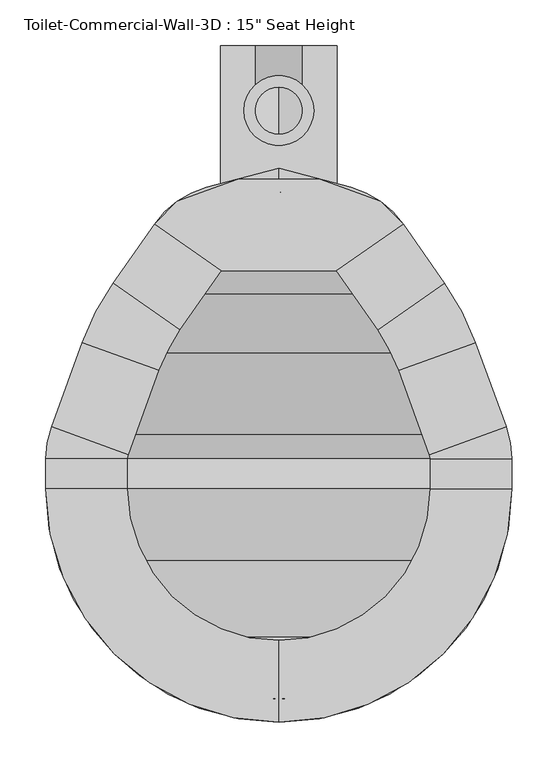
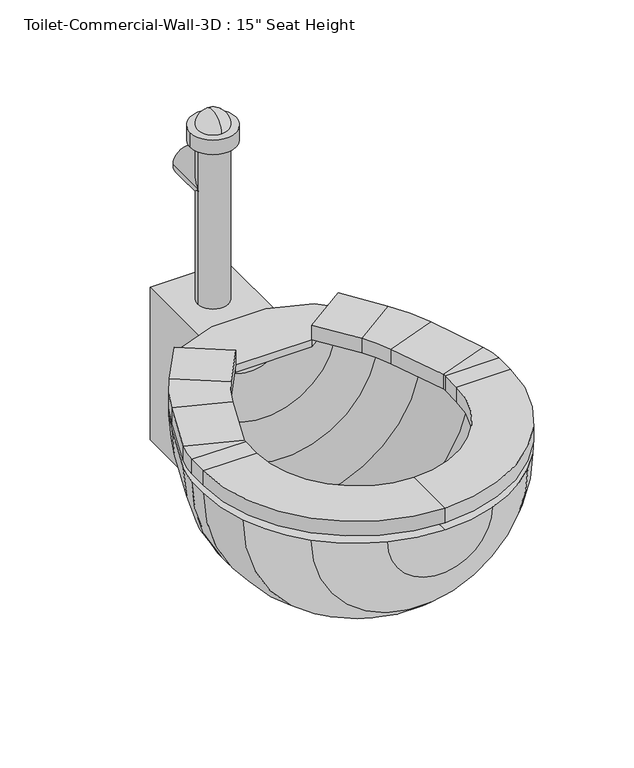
"""IFC4 building model written with IfcOpenShell, lengths in millimetres: flow terminal geometry."""

from ifc_helpers import new_model, si_unit, point, frame, frame_2d, origin, place, context, project, spatial, polyline, circle_curve, ellipse_curve, trimmed, segment, composite_curve, outline, extrude, source, transform, mapped, element, save
from ifc_brep_helpers import plane_surface, cylinder_surface, revolved_surface, advanced_brep


def flow_terminal_bb9b5f27(model_context):
    return source(origin(), model_context, "Body", "SolidModel", [
        extrude(outline(polyline([(467.7541169, -330.7597495), (342.0521907, -330.7597495), (269.229574, -279.7688043), (294.1800557, -254.8183226), (360.2423986, -230.7735961), (449.563909, -230.7735961), (515.6262519, -254.8183226), (540.5767337, -279.7688043), (467.7541169, -330.7597495)])), frame((0.0, 0.0, 342.9), z_axis=(0.0, 0.0, 1.0), x_axis=(1.0, 0.0, 0.0)), (0.0, 0.0, 1.0), 12.7),
        advanced_brep(
        [(467.7541169, -330.7597495, 355.6), (467.7541169, -330.7597495, 381.0), (540.5767337, -279.7688043, 381.0), (540.5767337, -279.7688043, 355.6), (585.6810159, -344.1843951, 355.6), (512.8583992, -395.1753403, 355.6), (585.6810159, -344.1843951, 381.0), (512.8583992, -395.1753403, 381.0), (619.360053, -408.8812234, 355.6), (535.821379, -439.2868141, 355.6), (619.360053, -408.8812234, 381.0), (535.821379, -439.2868141, 381.0), (652.7759241, -500.6905747, 355.6), (569.2372501, -531.0961654, 355.6), (652.7759241, -500.6905747, 381.0), (569.2372501, -531.0961654, 381.0), (658.9031538, -535.4398212, 355.6), (570.0031538, -535.4398212, 355.6), (658.9031538, -535.4398212, 381.0), (570.0031538, -535.4398212, 381.0), (658.9031538, -568.325, 355.6), (570.0031538, -568.325, 355.6), (658.9031538, -568.325, 381.0), (570.0031538, -568.325, 381.0), (404.9031538, -822.325, 355.6), (404.9031538, -733.425, 355.6), (404.9031538, -822.325, 381.0), (404.9031538, -733.425, 381.0), (150.9031538, -568.325, 355.6), (239.8031538, -568.325, 355.6), (150.9031538, -568.325, 381.0), (239.8031538, -568.325, 381.0), (150.9031538, -535.4398212, 355.6), (239.8031538, -535.4398212, 355.6), (150.9031538, -535.4398212, 381.0), (239.8031538, -535.4398212, 381.0), (157.0303835, -500.6905747, 355.6), (240.5690575, -531.0961654, 355.6), (157.0303835, -500.6905747, 381.0), (240.5690575, -531.0961654, 381.0), (190.4462546, -408.8812234, 355.6), (273.9849286, -439.2868141, 355.6), (190.4462546, -408.8812234, 381.0), (273.9849286, -439.2868141, 381.0), (224.1252917, -344.1843951, 355.6), (296.9479084, -395.1753403, 355.6), (224.1252917, -344.1843951, 381.0), (296.9479084, -395.1753403, 381.0), (342.0521907, -330.7597495, 355.6), (269.229574, -279.7688043, 355.6), (269.229574, -279.7688043, 381.0), (342.0521907, -330.7597495, 381.0)],
        [
            (0, 1),
            (1, 2),
            (2, 3),
            (3, 0),
            (3, 4),
            (4, 5),
            (5, 0),
            (2, 6),
            (6, 4),
            (1, 7),
            (7, 6),
            (5, 7),
            (8, 9),
            (9, 5, circle_curve(frame((356.8099347, -504.4416514, 355.6), z_axis=(0.0, 0.0, 1.0), x_axis=(0.81915204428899, 0.5735764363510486, 0.0)), 190.5)),
            (4, 8, circle_curve(frame((356.8099347, -504.4416514, 355.6), z_axis=(0.0, 0.0, -1.0), x_axis=(0.81915204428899, 0.5735764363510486, 0.0)), 279.4)),
            (10, 8),
            (6, 10, circle_curve(frame((356.8099347, -504.4416514, 381.0), z_axis=(0.0, 0.0, -1.0), x_axis=(0.81915204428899, 0.5735764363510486, 0.0)), 279.4)),
            (11, 10),
            (7, 11, circle_curve(frame((356.8099347, -504.4416514, 381.0), z_axis=(0.0, 0.0, -1.0), x_axis=(0.81915204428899, 0.5735764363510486, 0.0)), 190.5)),
            (9, 11),
            (8, 12),
            (12, 13),
            (13, 9),
            (10, 14),
            (14, 12),
            (11, 15),
            (15, 14),
            (13, 15),
            (16, 17),
            (17, 13, circle_curve(frame((557.3031538, -535.4398212, 355.6), z_axis=(0.0, 0.0, 1.0), x_axis=(0.939692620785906, 0.34202014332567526, 0.0)), 12.7)),
            (12, 16, circle_curve(frame((557.3031538, -535.4398212, 355.6), z_axis=(0.0, 0.0, -1.0), x_axis=(0.939692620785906, 0.34202014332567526, 0.0)), 101.6)),
            (18, 16),
            (14, 18, circle_curve(frame((557.3031538, -535.4398212, 381.0), z_axis=(0.0, 0.0, -1.0), x_axis=(0.939692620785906, 0.34202014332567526, 0.0)), 101.6)),
            (19, 18),
            (15, 19, circle_curve(frame((557.3031538, -535.4398212, 381.0), z_axis=(0.0, 0.0, -1.0), x_axis=(0.939692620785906, 0.34202014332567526, 0.0)), 12.7)),
            (17, 19),
            (16, 20),
            (20, 21),
            (21, 17),
            (18, 22),
            (22, 20),
            (19, 23),
            (23, 22),
            (21, 23),
            (24, 25),
            (25, 21, circle_curve(frame((404.9031538, -568.325, 355.6), z_axis=(0.0, 0.0, 1.0), x_axis=(1.0, 0.0, 0.0)), 165.1)),
            (20, 24, circle_curve(frame((404.9031538, -568.325, 355.6), z_axis=(0.0, 0.0, -1.0), x_axis=(1.0, 0.0, 0.0)), 254.0)),
            (26, 24),
            (22, 26, circle_curve(frame((404.9031538, -568.325, 381.0), z_axis=(0.0, 0.0, -1.0), x_axis=(1.0, 0.0, 0.0)), 254.0)),
            (27, 26),
            (23, 27, circle_curve(frame((404.9031538, -568.325, 381.0), z_axis=(0.0, 0.0, -1.0), x_axis=(1.0, 0.0, 0.0)), 165.1)),
            (25, 27),
            (28, 29),
            (29, 25, circle_curve(frame((404.9031538, -568.325, 355.6), z_axis=(0.0, 0.0, 1.0), x_axis=(0.0, -1.0, 0.0)), 165.1)),
            (24, 28, circle_curve(frame((404.9031538, -568.325, 355.6), z_axis=(0.0, 0.0, -1.0), x_axis=(0.0, -1.0, 0.0)), 254.0)),
            (30, 28),
            (26, 30, circle_curve(frame((404.9031538, -568.325, 381.0), z_axis=(0.0, 0.0, -1.0), x_axis=(0.0, -1.0, 0.0)), 254.0)),
            (31, 30),
            (27, 31, circle_curve(frame((404.9031538, -568.325, 381.0), z_axis=(0.0, 0.0, -1.0), x_axis=(0.0, -1.0, 0.0)), 165.1)),
            (29, 31),
            (28, 32),
            (32, 33),
            (33, 29),
            (30, 34),
            (34, 32),
            (31, 35),
            (35, 34),
            (33, 35),
            (36, 37),
            (37, 33, circle_curve(frame((252.5031538, -535.4398212, 355.6), z_axis=(0.0, 0.0, 1.0), x_axis=(-1.0, 0.0, 0.0)), 12.7)),
            (32, 36, circle_curve(frame((252.5031538, -535.4398212, 355.6), z_axis=(0.0, 0.0, -1.0), x_axis=(-1.0, 0.0, 0.0)), 101.6)),
            (38, 36),
            (34, 38, circle_curve(frame((252.5031538, -535.4398212, 381.0), z_axis=(0.0, 0.0, -1.0), x_axis=(-1.0, 0.0, 0.0)), 101.6)),
            (39, 38),
            (35, 39, circle_curve(frame((252.5031538, -535.4398212, 381.0), z_axis=(0.0, 0.0, -1.0), x_axis=(-1.0, 0.0, 0.0)), 12.7)),
            (37, 39),
            (36, 40),
            (40, 41),
            (41, 37),
            (38, 42),
            (42, 40),
            (39, 43),
            (43, 42),
            (41, 43),
            (44, 45),
            (45, 41, circle_curve(frame((452.9963729, -504.4416514, 355.6), z_axis=(0.0, 0.0, 1.0), x_axis=(-0.9396926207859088, 0.34202014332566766, 0.0)), 190.5)),
            (40, 44, circle_curve(frame((452.9963729, -504.4416514, 355.6), z_axis=(0.0, 0.0, -1.0), x_axis=(-0.9396926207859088, 0.34202014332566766, 0.0)), 279.4)),
            (46, 44),
            (42, 46, circle_curve(frame((452.9963729, -504.4416514, 381.0), z_axis=(0.0, 0.0, -1.0), x_axis=(-0.9396926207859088, 0.34202014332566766, 0.0)), 279.4)),
            (47, 46),
            (43, 47, circle_curve(frame((452.9963729, -504.4416514, 381.0), z_axis=(0.0, 0.0, -1.0), x_axis=(-0.9396926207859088, 0.34202014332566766, 0.0)), 190.5)),
            (45, 47),
            (48, 49),
            (49, 50),
            (50, 51),
            (51, 48),
            (44, 49),
            (48, 45),
            (46, 50),
            (47, 51),
        ],
        [
            plane_surface(frame((540.5767337, -279.7688043, 439.6203184), z_axis=(-0.5735764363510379, 0.8191520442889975, 0.0), x_axis=(0.8191520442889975, 0.5735764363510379, 0.0))),
            plane_surface(frame((467.7541169, -330.7597495, 355.6), z_axis=(0.0, 0.0, -1.0), x_axis=(0.5735764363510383, -0.8191520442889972, 0.0))),
            plane_surface(frame((540.5767337, -279.7688043, 355.6), z_axis=(0.8191520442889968, 0.5735764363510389, 0.0), x_axis=(0.5735764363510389, -0.8191520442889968, 0.0))),
            plane_surface(frame((540.5767337, -279.7688043, 381.0), z_axis=(0.0, 0.0, 1.0), x_axis=(0.5735764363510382, -0.8191520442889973, 0.0))),
            plane_surface(frame((467.7541169, -330.7597495, 381.0), z_axis=(-0.8191520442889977, -0.5735764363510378, 0.0), x_axis=(0.5735764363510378, -0.8191520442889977, 0.0))),
            plane_surface(frame((356.8099347, -504.4416514, 355.6), z_axis=(0.0, 0.0, -1.0), x_axis=(0.81915204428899, 0.5735764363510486, 0.0))),
            cylinder_surface(frame((356.8099347, -504.4416514, 342.9), z_axis=(0.0, 0.0, 1.0), x_axis=(0.81915204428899, 0.5735764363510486, 0.0)), 279.4),
            plane_surface(frame((356.8099347, -504.4416514, 381.0), z_axis=(0.0, 0.0, 1.0), x_axis=(0.81915204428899, 0.5735764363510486, 0.0))),
            revolved_surface(polyline([(512.8583991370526, -395.1753402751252, 381.0), (512.8583991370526, -395.1753402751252, 355.6)]), (356.8099347, -504.4416514, 342.9), (0.0, 0.0, 1.0)),
            plane_surface(frame((535.821379, -439.2868141, 355.6), z_axis=(0.0, 0.0, -1.0), x_axis=(0.34202014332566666, -0.9396926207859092, 0.0))),
            plane_surface(frame((619.360053, -408.8812234, 355.6), z_axis=(0.9396926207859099, 0.3420201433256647, 0.0), x_axis=(0.3420201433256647, -0.9396926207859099, 0.0))),
            plane_surface(frame((619.360053, -408.8812234, 381.0), z_axis=(0.0, 0.0, 1.0), x_axis=(0.3420201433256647, -0.9396926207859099, 0.0))),
            plane_surface(frame((535.821379, -439.2868141, 381.0), z_axis=(-0.9396926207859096, -0.3420201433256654, 0.0), x_axis=(0.3420201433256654, -0.9396926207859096, 0.0))),
            plane_surface(frame((557.3031538, -535.4398212, 355.6), z_axis=(0.0, 0.0, -1.0), x_axis=(0.939692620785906, 0.34202014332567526, 0.0))),
            cylinder_surface(frame((557.3031538, -535.4398212, 342.9), z_axis=(0.0, 0.0, 1.0), x_axis=(0.939692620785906, 0.34202014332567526, 0.0)), 101.6),
            plane_surface(frame((557.3031538, -535.4398212, 381.0), z_axis=(0.0, 0.0, 1.0), x_axis=(0.939692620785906, 0.34202014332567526, 0.0))),
            revolved_surface(polyline([(569.237250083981, -531.0961653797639, 381.0), (569.237250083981, -531.0961653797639, 355.6)]), (557.3031538, -535.4398212, 342.9), (0.0, 0.0, 1.0)),
            plane_surface(frame((570.0031538, -535.4398212, 355.6), z_axis=(0.0, 0.0, -1.0), x_axis=(0.0, -1.0, 0.0))),
            plane_surface(frame((658.9031538, -535.4398212, 355.6), z_axis=(1.0, 0.0, 0.0), x_axis=(0.0, -1.0, 0.0))),
            plane_surface(frame((658.9031538, -535.4398212, 381.0), z_axis=(0.0, 0.0, 1.0), x_axis=(0.0, -1.0, 0.0))),
            plane_surface(frame((570.0031538, -535.4398212, 381.0), z_axis=(-1.0, 0.0, 0.0), x_axis=(0.0, -1.0, 0.0))),
            plane_surface(frame((404.9031538, -568.325, 355.6), z_axis=(0.0, 0.0, -1.0), x_axis=(1.0, 0.0, 0.0))),
            cylinder_surface(frame((404.9031538, -568.325, 342.9), z_axis=(0.0, 0.0, 1.0), x_axis=(1.0, 0.0, 0.0)), 254.0),
            plane_surface(frame((404.9031538, -568.325, 381.0), z_axis=(0.0, 0.0, 1.0), x_axis=(1.0, 0.0, 0.0))),
            revolved_surface(polyline([(570.0031538, -568.325, 381.0), (570.0031538, -568.325, 355.6)]), (404.9031538, -568.325, 342.9), (0.0, 0.0, 1.0)),
            plane_surface(frame((404.9031538, -568.325, 355.6), z_axis=(0.0, 0.0, -1.0), x_axis=(0.0, -1.0, 0.0))),
            cylinder_surface(frame((404.9031538, -568.325, 342.9), z_axis=(0.0, 0.0, 1.0), x_axis=(0.0, -1.0, 0.0)), 254.0),
            plane_surface(frame((404.9031538, -568.325, 381.0), z_axis=(0.0, 0.0, 1.0), x_axis=(0.0, -1.0, 0.0))),
            revolved_surface(polyline([(404.9031538, -733.4250000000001, 381.0), (404.9031538, -733.4250000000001, 355.6)]), (404.9031538, -568.325, 342.9), (0.0, 0.0, 1.0)),
            plane_surface(frame((239.8031538, -568.325, 355.6), z_axis=(0.0, 0.0, -1.0), x_axis=(0.0, 1.0, 0.0))),
            plane_surface(frame((150.9031538, -568.325, 355.6), z_axis=(-1.0, 0.0, 0.0), x_axis=(0.0, 1.0, 0.0))),
            plane_surface(frame((150.9031538, -568.325, 381.0), z_axis=(0.0, 0.0, 1.0), x_axis=(0.0, 1.0, 0.0))),
            plane_surface(frame((239.8031538, -568.325, 381.0), z_axis=(1.0, 0.0, 0.0), x_axis=(0.0, 1.0, 0.0))),
            plane_surface(frame((252.5031538, -535.4398212, 355.6), z_axis=(0.0, 0.0, -1.0), x_axis=(-1.0, 0.0, 0.0))),
            cylinder_surface(frame((252.5031538, -535.4398212, 342.9), z_axis=(0.0, 0.0, 1.0), x_axis=(-1.0, 0.0, 0.0)), 101.6),
            plane_surface(frame((252.5031538, -535.4398212, 381.0), z_axis=(0.0, 0.0, 1.0), x_axis=(-1.0, 0.0, 0.0))),
            revolved_surface(polyline([(239.80315380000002, -535.4398212, 381.0), (239.80315380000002, -535.4398212, 355.6)]), (252.5031538, -535.4398212, 342.9), (0.0, 0.0, 1.0)),
            plane_surface(frame((240.5690575, -531.0961654, 355.6), z_axis=(0.0, 0.0, -1.0), x_axis=(0.3420201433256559, 0.9396926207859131, 0.0))),
            plane_surface(frame((157.0303835, -500.6905747, 355.6), z_axis=(-0.9396926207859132, 0.34202014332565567, 0.0), x_axis=(0.34202014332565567, 0.9396926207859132, 0.0))),
            plane_surface(frame((157.0303835, -500.6905747, 381.0), z_axis=(0.0, 0.0, 1.0000000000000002), x_axis=(0.3420201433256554, 0.9396926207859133, 0.0))),
            plane_surface(frame((240.5690575, -531.0961654, 381.0), z_axis=(0.9396926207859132, -0.34202014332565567, 0.0), x_axis=(0.34202014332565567, 0.9396926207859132, 0.0))),
            plane_surface(frame((452.9963729, -504.4416514, 355.6), z_axis=(0.0, 0.0, -1.0), x_axis=(-0.9396926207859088, 0.34202014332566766, 0.0))),
            cylinder_surface(frame((452.9963729, -504.4416514, 342.9), z_axis=(0.0, 0.0, 1.0), x_axis=(-0.9396926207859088, 0.34202014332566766, 0.0)), 279.4),
            plane_surface(frame((452.9963729, -504.4416514, 381.0), z_axis=(0.0, 0.0, 1.0), x_axis=(-0.9396926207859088, 0.34202014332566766, 0.0))),
            revolved_surface(polyline([(273.98492864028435, -439.2868140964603, 381.0), (273.98492864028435, -439.2868140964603, 355.6)]), (452.9963729, -504.4416514, 342.9), (0.0, 0.0, 1.0)),
            plane_surface(frame((269.229574, -279.7688043, 246.1796816), z_axis=(0.5735764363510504, 0.8191520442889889, 0.0), x_axis=(0.8191520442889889, -0.5735764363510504, 0.0))),
            plane_surface(frame((296.9479084, -395.1753403, 355.6), z_axis=(0.0, 0.0, -1.0), x_axis=(0.5735764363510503, 0.8191520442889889, 0.0))),
            plane_surface(frame((224.1252917, -344.1843951, 355.6), z_axis=(-0.8191520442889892, 0.5735764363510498, 0.0), x_axis=(0.5735764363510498, 0.8191520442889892, 0.0))),
            plane_surface(frame((224.1252917, -344.1843951, 381.0), z_axis=(0.0, 0.0, 1.0), x_axis=(0.5735764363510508, 0.8191520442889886, 0.0))),
            plane_surface(frame((296.9479084, -395.1753403, 381.0), z_axis=(0.8191520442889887, -0.5735764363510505, 0.0), x_axis=(0.5735764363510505, 0.8191520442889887, 0.0))),
        ],
        [
            (0, [[1, 2, 3, 4]]),
            (1, [[5, 6, 7, -4]]),
            (2, [[8, 9, -5, -3]]),
            (3, [[10, 11, -8, -2]]),
            (4, [[-7, 12, -10, -1]]),
            (5, [[13, 14, -6, 15]]),
            (6, [[16, -15, -9, 17]]),
            (7, [[18, -17, -11, 19]]),
            (8, [[20, -19, -12, -14]]),
            (9, [[21, 22, 23, -13]]),
            (10, [[24, 25, -21, -16]]),
            (11, [[26, 27, -24, -18]]),
            (12, [[-23, 28, -26, -20]]),
            (13, [[29, 30, -22, 31]]),
            (14, [[32, -31, -25, 33]]),
            (15, [[34, -33, -27, 35]]),
            (16, [[36, -35, -28, -30]]),
            (17, [[37, 38, 39, -29]]),
            (18, [[40, 41, -37, -32]]),
            (19, [[42, 43, -40, -34]]),
            (20, [[-39, 44, -42, -36]]),
            (21, [[45, 46, -38, 47]]),
            (22, [[48, -47, -41, 49]]),
            (23, [[50, -49, -43, 51]]),
            (24, [[52, -51, -44, -46]]),
            (25, [[53, 54, -45, 55]]),
            (26, [[56, -55, -48, 57]]),
            (27, [[58, -57, -50, 59]]),
            (28, [[60, -59, -52, -54]]),
            (29, [[61, 62, 63, -53]]),
            (30, [[64, 65, -61, -56]]),
            (31, [[66, 67, -64, -58]]),
            (32, [[-63, 68, -66, -60]]),
            (33, [[69, 70, -62, 71]]),
            (34, [[72, -71, -65, 73]]),
            (35, [[74, -73, -67, 75]]),
            (36, [[76, -75, -68, -70]]),
            (37, [[77, 78, 79, -69]]),
            (38, [[80, 81, -77, -72]]),
            (39, [[82, 83, -80, -74]]),
            (40, [[-79, 84, -82, -76]]),
            (41, [[85, 86, -78, 87]]),
            (42, [[88, -87, -81, 89]]),
            (43, [[90, -89, -83, 91]]),
            (44, [[92, -91, -84, -86]]),
            (45, [[93, 94, 95, 96]]),
            (46, [[97, -93, 98, -85]]),
            (47, [[99, -94, -97, -88]]),
            (48, [[100, -95, -99, -90]]),
            (49, [[-98, -96, -100, -92]]),
        ],
    ),
        advanced_brep(
        [(491.7762702, -807.0069257, 342.9), (584.5082762, -747.9301224, 342.9), (643.5850795, -655.1981164, 342.9), (658.9031538, -568.325, 342.9), (658.9031538, -535.4398212, 342.9), (652.7759241, -500.6905747, 342.9), (619.360053, -408.8812234, 342.9), (585.6810159, -344.1843951, 342.9), (540.5767337, -279.7688043, 342.9), (483.6469009, -239.9061063, 342.9), (404.9031538, -218.8067829, 342.9), (404.9031538, -245.1027978, 342.9), (468.1430637, -262.0478806, 342.9), (525.0728964, -301.9105786, 342.9), (562.9565296, -356.0140139, 342.9), (596.6355667, -420.7108422, 342.9), (628.9077315, -509.3778863, 342.9), (633.5031538, -535.4398212, 342.9), (633.5031538, -568.325, 342.9), (619.7168869, -646.5108048, 342.9), (566.547764, -729.9696102, 342.9), (483.0889586, -783.1387331, 342.9), (404.9031538, -796.925, 342.9), (404.9031538, -822.325, 342.9), (318.0300374, -807.0069257, 342.9), (326.7173491, -783.1387331, 342.9), (243.2585436, -729.9696102, 342.9), (190.0894207, -646.5108048, 342.9), (176.3031538, -568.325, 342.9), (176.3031538, -535.4398212, 342.9), (180.8985761, -509.3778863, 342.9), (213.1707409, -420.7108422, 342.9), (246.849778, -356.0140139, 342.9), (284.7334112, -301.9105786, 342.9), (341.663244, -262.0478806, 342.9), (326.1594067, -239.9061063, 342.9), (269.229574, -279.7688043, 342.9), (224.1252917, -344.1843951, 342.9), (190.4462546, -408.8812234, 342.9), (157.0303835, -500.6905747, 342.9), (150.9031538, -535.4398212, 342.9), (150.9031538, -568.325, 342.9), (166.2212281, -655.1981164, 342.9), (225.2980314, -747.9301224, 342.9)],
        [
            (0, 1, circle_curve(frame((404.9031538, -568.325, 342.9), z_axis=(0.0, 0.0, 1.0), x_axis=(1.0, 0.0, 0.0)), 254.0)),
            (1, 2, circle_curve(frame((404.9031538, -568.325, 342.9), z_axis=(0.0, 0.0, 1.0), x_axis=(1.0, 0.0, 0.0)), 254.0)),
            (2, 3, circle_curve(frame((404.9031538, -568.325, 342.9), z_axis=(0.0, 0.0, 1.0), x_axis=(1.0, 0.0, 0.0)), 254.0)),
            (3, 4),
            (4, 5, circle_curve(frame((557.3031538, -535.4398212, 342.9), z_axis=(0.0, 0.0, 1.0), x_axis=(1.0, 0.0, 0.0)), 101.6)),
            (5, 6),
            (6, 7, circle_curve(frame((356.8099347, -504.4416514, 342.9), z_axis=(0.0, 0.0, 1.0), x_axis=(1.0, 0.0, 0.0)), 279.4)),
            (7, 8),
            (8, 9, circle_curve(frame((457.350886, -338.0441703, 342.9), z_axis=(0.0, 0.0, 1.0), x_axis=(1.0, 0.0, 0.0)), 101.6)),
            (9, 10),
            (10, 11),
            (11, 12),
            (12, 13, circle_curve(frame((441.8470487, -360.1859446, 342.9), z_axis=(0.0, 0.0, -1.0), x_axis=(1.0, 0.0, 0.0)), 101.6)),
            (13, 14),
            (14, 15, circle_curve(frame((334.0854485, -516.2712703, 342.9), z_axis=(0.0, 0.0, -1.0), x_axis=(1.0, 0.0, 0.0)), 279.4)),
            (15, 16),
            (16, 17, circle_curve(frame((557.3031538, -535.4398212, 342.9), z_axis=(0.0, 0.0, -1.0), x_axis=(1.0, 0.0, 0.0)), 76.2)),
            (17, 18),
            (18, 19, circle_curve(frame((404.9031538, -568.325, 342.9), z_axis=(0.0, 0.0, -1.0), x_axis=(1.0, 0.0, 0.0)), 228.6)),
            (19, 20, circle_curve(frame((404.9031538, -568.325, 342.9), z_axis=(0.0, 0.0, -1.0), x_axis=(1.0, 0.0, 0.0)), 228.6)),
            (20, 21, circle_curve(frame((404.9031538, -568.325, 342.9), z_axis=(0.0, 0.0, -1.0), x_axis=(1.0, 0.0, 0.0)), 228.6)),
            (21, 22, circle_curve(frame((404.9031538, -568.325, 342.9), z_axis=(0.0, 0.0, -1.0), x_axis=(1.0, 0.0, 0.0)), 228.6)),
            (22, 23),
            (23, 0, circle_curve(frame((404.9031538, -568.325, 342.9), z_axis=(0.0, 0.0, 1.0), x_axis=(1.0, 0.0, 0.0)), 254.0)),
            (24, 23, circle_curve(frame((404.9031538, -568.325, 342.9), z_axis=(0.0, 0.0, 1.0), x_axis=(-1.0, 0.0, 0.0)), 254.0)),
            (22, 25, circle_curve(frame((404.9031538, -568.325, 342.9), z_axis=(0.0, 0.0, -1.0), x_axis=(-1.0, 0.0, 0.0)), 228.6)),
            (25, 26, circle_curve(frame((404.9031538, -568.325, 342.9), z_axis=(0.0, 0.0, -1.0), x_axis=(-1.0, 0.0, 0.0)), 228.6)),
            (26, 27, circle_curve(frame((404.9031538, -568.325, 342.9), z_axis=(0.0, 0.0, -1.0), x_axis=(-1.0, 0.0, 0.0)), 228.6)),
            (27, 28, circle_curve(frame((404.9031538, -568.325, 342.9), z_axis=(0.0, 0.0, -1.0), x_axis=(-1.0, 0.0, 0.0)), 228.6)),
            (28, 29),
            (29, 30, circle_curve(frame((252.5031538, -535.4398212, 342.9), z_axis=(0.0, 0.0, -1.0), x_axis=(-1.0, 0.0, 0.0)), 76.2)),
            (30, 31),
            (31, 32, circle_curve(frame((475.7208592, -516.2712703, 342.9), z_axis=(0.0, 0.0, -1.0), x_axis=(-1.0, 0.0, 0.0)), 279.4)),
            (32, 33),
            (33, 34, circle_curve(frame((367.9592589, -360.1859446, 342.9), z_axis=(0.0, 0.0, -1.0), x_axis=(-1.0, 0.0, 0.0)), 101.6)),
            (34, 11),
            (10, 35),
            (35, 36, circle_curve(frame((352.4554217, -338.0441703, 342.9), z_axis=(0.0, 0.0, 1.0), x_axis=(-1.0, 0.0, 0.0)), 101.6)),
            (36, 37),
            (37, 38, circle_curve(frame((452.9963729, -504.4416514, 342.9), z_axis=(0.0, 0.0, 1.0), x_axis=(-1.0, 0.0, 0.0)), 279.4)),
            (38, 39),
            (39, 40, circle_curve(frame((252.5031538, -535.4398212, 342.9), z_axis=(0.0, 0.0, 1.0), x_axis=(-1.0, 0.0, 0.0)), 101.6)),
            (40, 41),
            (41, 42, circle_curve(frame((404.9031538, -568.325, 342.9), z_axis=(0.0, 0.0, 1.0), x_axis=(-1.0, 0.0, 0.0)), 254.0)),
            (42, 43, circle_curve(frame((404.9031538, -568.325, 342.9), z_axis=(0.0, 0.0, 1.0), x_axis=(-1.0, 0.0, 0.0)), 254.0)),
            (43, 24, circle_curve(frame((404.9031538, -568.325, 342.9), z_axis=(0.0, 0.0, 1.0), x_axis=(-1.0, 0.0, 0.0)), 254.0)),
            (24, 0, circle_curve(frame((404.9031538, -807.0069257, 342.9), z_axis=(0.0, -1.0, 0.0), x_axis=(1.0, 0.0, 0.0)), 86.8731164)),
            (21, 25, circle_curve(frame((404.9031538, -783.1387331, 342.9), z_axis=(0.0, 1.0, 0.0), x_axis=(1.0, 0.0, 0.0)), 78.1858048)),
            (20, 26, circle_curve(frame((404.9031538, -729.9696102, 342.9), z_axis=(0.0, 1.0, 0.0), x_axis=(1.0, 0.0, 0.0)), 161.6446102)),
            (19, 27, circle_curve(frame((404.9031538, -646.5108048, 342.9), z_axis=(0.0, 1.0, 0.0), x_axis=(1.0, 0.0, 0.0)), 214.8137331)),
            (18, 28, circle_curve(frame((404.9031538, -568.325, 342.9), z_axis=(0.0, 1.0, 0.0), x_axis=(1.0, 0.0, 0.0)), 228.6)),
            (17, 29, circle_curve(frame((404.9031538, -535.4398212, 342.9), z_axis=(0.0, 1.0, 0.0), x_axis=(1.0, 0.0, 0.0)), 228.6)),
            (16, 30, circle_curve(frame((404.9031538, -509.3778863, 342.9), z_axis=(0.0, 1.0, 0.0), x_axis=(1.0, 0.0, 0.0)), 224.0045777)),
            (15, 31, circle_curve(frame((404.9031538, -420.7108422, 342.9), z_axis=(0.0, 1.0, 0.0), x_axis=(1.0, 0.0, 0.0)), 191.7324129)),
            (14, 32, circle_curve(frame((404.9031538, -356.0140139, 342.9), z_axis=(0.0, 1.0, 0.0), x_axis=(1.0, 0.0, 0.0)), 158.0533758)),
            (13, 33, circle_curve(frame((404.9031538, -301.9105786, 342.9), z_axis=(0.0, 1.0, 0.0), x_axis=(1.0, 0.0, 0.0)), 120.1697426)),
            (12, 34, circle_curve(frame((404.9031538, -262.0478806, 342.9), z_axis=(0.0, 1.0, 0.0), x_axis=(1.0, 0.0, 0.0)), 63.2399099)),
            (9, 35, circle_curve(frame((404.9031538, -239.9061063, 342.9), z_axis=(0.0, 1.0, 0.0), x_axis=(1.0, 0.0, 0.0)), 78.7437471)),
            (8, 36, circle_curve(frame((404.9031538, -279.7688043, 342.9), z_axis=(0.0, 1.0, 0.0), x_axis=(1.0, 0.0, 0.0)), 135.6735798)),
            (7, 37, circle_curve(frame((404.9031538, -344.1843951, 342.9), z_axis=(0.0, 1.0, 0.0), x_axis=(1.0, 0.0, 0.0)), 180.7778621)),
            (6, 38, circle_curve(frame((404.9031538, -408.8812234, 342.9), z_axis=(0.0, 1.0, 0.0), x_axis=(1.0, 0.0, 0.0)), 214.4568992)),
            (5, 39, circle_curve(frame((404.9031538, -500.6905747, 342.9), z_axis=(0.0, 1.0, 0.0), x_axis=(1.0, 0.0, 0.0)), 247.8727703)),
            (4, 40, circle_curve(frame((404.9031538, -535.4398212, 342.9), z_axis=(0.0, 1.0, 0.0), x_axis=(1.0, 0.0, 0.0)), 254.0)),
            (3, 41, circle_curve(frame((404.9031538, -568.325, 342.9), z_axis=(0.0, 1.0, 0.0), x_axis=(1.0, 0.0, 0.0)), 254.0)),
            (2, 42, circle_curve(frame((404.9031538, -655.1981164, 342.9), z_axis=(0.0, 1.0, 0.0), x_axis=(1.0, 0.0, 0.0)), 238.6819257)),
            (1, 43, circle_curve(frame((404.9031538, -747.9301224, 342.9), z_axis=(0.0, 1.0, 0.0), x_axis=(1.0, 0.0, 0.0)), 179.6051224)),
        ],
        [
            plane_surface(frame((404.9031538, -927.5352448, 342.9), z_axis=(0.0, 0.0, 1.0), x_axis=(1.0, 0.0, 0.0))),
            plane_surface(frame((404.9031538, -927.5352448, 342.9), z_axis=(0.0, 0.0, 1.0), x_axis=(-1.0, 0.0, 0.0))),
            revolved_surface(trimmed(ellipse_curve(frame((404.9031538, -568.325, 342.9), z_axis=(0.0, 0.0, -1.0), x_axis=(1.0, 0.0, 0.0)), 254.0, 254.0), [point((491.7762702, -807.0069257, 342.9))], [point((404.9031538, -822.325, 342.9))], True, "CARTESIAN"), (404.9031538, -927.5352448, 342.9), (0.0, -1.0, 0.0)),
            revolved_surface(trimmed(ellipse_curve(frame((404.9031538, -568.325, 342.9), z_axis=(0.0, 0.0, 1.0), x_axis=(1.0, 0.0, 0.0)), 228.6, 228.6), [point((404.9031538, -796.925, 342.9))], [point((483.0889586, -783.1387331, 342.9))], True, "CARTESIAN"), (404.9031538, -927.5352448, 342.9), (0.0, -1.0, 0.0)),
            revolved_surface(trimmed(ellipse_curve(frame((404.9031538, -568.325, 342.9), z_axis=(0.0, 0.0, 1.0), x_axis=(1.0, 0.0, 0.0)), 228.6, 228.6), [point((483.0889586, -783.1387331, 342.9))], [point((566.547764, -729.9696102, 342.9))], True, "CARTESIAN"), (404.9031538, -927.5352448, 342.9), (0.0, -1.0, 0.0)),
            revolved_surface(trimmed(ellipse_curve(frame((404.9031538, -568.325, 342.9), z_axis=(0.0, 0.0, 1.0), x_axis=(1.0, 0.0, 0.0)), 228.6, 228.6), [point((566.547764, -729.9696102, 342.9))], [point((619.7168869, -646.5108048, 342.9))], True, "CARTESIAN"), (404.9031538, -927.5352448, 342.9), (0.0, -1.0, 0.0)),
            revolved_surface(trimmed(ellipse_curve(frame((404.9031538, -568.325, 342.9), z_axis=(0.0, 0.0, 1.0), x_axis=(1.0, 0.0, 0.0)), 228.6, 228.6), [point((619.7168869, -646.5108048, 342.9))], [point((633.5031538, -568.325, 342.9))], True, "CARTESIAN"), (404.9031538, -927.5352448, 342.9), (0.0, -1.0, 0.0)),
            revolved_surface(polyline([(633.5031538, -568.325, 342.9), (633.5031538, -535.4398212, 342.9)]), (404.9031538, -927.5352448, 342.9), (0.0, -1.0, 0.0)),
            revolved_surface(trimmed(ellipse_curve(frame((557.3031538, -535.4398212, 342.9), z_axis=(0.0, 0.0, 1.0), x_axis=(1.0, 0.0, 0.0)), 76.2, 76.2), [point((633.5031538, -535.4398212, 342.9))], [point((628.9077315, -509.3778863, 342.9))], True, "CARTESIAN"), (404.9031538, -927.5352448, 342.9), (0.0, -1.0, 0.0)),
            revolved_surface(polyline([(628.9077315, -509.3778863, 342.9), (596.6355667, -420.7108422, 342.9)]), (404.9031538, -927.5352448, 342.9), (0.0, -1.0, 0.0)),
            revolved_surface(trimmed(ellipse_curve(frame((334.0854485, -516.2712703, 342.9), z_axis=(0.0, 0.0, 1.0), x_axis=(1.0, 0.0, 0.0)), 279.4, 279.4), [point((596.6355667, -420.7108422, 342.9))], [point((562.9565296, -356.0140139, 342.9))], True, "CARTESIAN"), (404.9031538, -927.5352448, 342.9), (0.0, -1.0, 0.0)),
            revolved_surface(polyline([(562.9565296, -356.0140139, 342.9), (525.0728964, -301.9105786, 342.9)]), (404.9031538, -927.5352448, 342.9), (0.0, -1.0, 0.0)),
            revolved_surface(trimmed(ellipse_curve(frame((441.8470487, -360.1859446, 342.9), z_axis=(0.0, 0.0, 1.0), x_axis=(1.0, 0.0, 0.0)), 101.6, 101.6), [point((525.0728964, -301.9105786, 342.9))], [point((468.1430637, -262.0478806, 342.9))], True, "CARTESIAN"), (404.9031538, -927.5352448, 342.9), (0.0, -1.0, 0.0)),
            revolved_surface(polyline([(468.1430637, -262.0478806, 342.9), (404.9031538, -245.1027978, 342.9)]), (404.9031538, -927.5352448, 342.9), (0.0, -1.0, 0.0)),
            revolved_surface(polyline([(404.9031538, -218.8067829, 342.9), (483.6469009, -239.9061063, 342.9)]), (404.9031538, -927.5352448, 342.9), (0.0, -1.0, 0.0)),
            revolved_surface(trimmed(ellipse_curve(frame((457.350886, -338.0441703, 342.9), z_axis=(0.0, 0.0, -1.0), x_axis=(1.0, 0.0, 0.0)), 101.6, 101.6), [point((483.6469009, -239.9061063, 342.9))], [point((540.5767337, -279.7688043, 342.9))], True, "CARTESIAN"), (404.9031538, -927.5352448, 342.9), (0.0, -1.0, 0.0)),
            revolved_surface(polyline([(540.5767337, -279.7688043, 342.9), (585.6810159, -344.1843951, 342.9)]), (404.9031538, -927.5352448, 342.9), (0.0, -1.0, 0.0)),
            revolved_surface(trimmed(ellipse_curve(frame((356.8099347, -504.4416514, 342.9), z_axis=(0.0, 0.0, -1.0), x_axis=(1.0, 0.0, 0.0)), 279.4, 279.4), [point((585.6810159, -344.1843951, 342.9))], [point((619.360053, -408.8812234, 342.9))], True, "CARTESIAN"), (404.9031538, -927.5352448, 342.9), (0.0, -1.0, 0.0)),
            revolved_surface(polyline([(619.360053, -408.8812234, 342.9), (652.7759241, -500.6905747, 342.9)]), (404.9031538, -927.5352448, 342.9), (0.0, -1.0, 0.0)),
            revolved_surface(trimmed(ellipse_curve(frame((557.3031538, -535.4398212, 342.9), z_axis=(0.0, 0.0, -1.0), x_axis=(1.0, 0.0, 0.0)), 101.6, 101.6), [point((652.7759241, -500.6905747, 342.9))], [point((658.9031538, -535.4398212, 342.9))], True, "CARTESIAN"), (404.9031538, -927.5352448, 342.9), (0.0, -1.0, 0.0)),
            cylinder_surface(frame((404.9031538, -927.5352448, 342.9), z_axis=(0.0, -1.0, 0.0), x_axis=(1.0, 0.0, 0.0)), 254.0),
            revolved_surface(trimmed(ellipse_curve(frame((404.9031538, -568.325, 342.9), z_axis=(0.0, 0.0, -1.0), x_axis=(1.0, 0.0, 0.0)), 254.0, 254.0), [point((658.9031538, -568.325, 342.9))], [point((643.5850795, -655.1981164, 342.9))], True, "CARTESIAN"), (404.9031538, -927.5352448, 342.9), (0.0, -1.0, 0.0)),
            revolved_surface(trimmed(ellipse_curve(frame((404.9031538, -568.325, 342.9), z_axis=(0.0, 0.0, -1.0), x_axis=(1.0, 0.0, 0.0)), 254.0, 254.0), [point((643.5850795, -655.1981164, 342.9))], [point((584.5082762, -747.9301224, 342.9))], True, "CARTESIAN"), (404.9031538, -927.5352448, 342.9), (0.0, -1.0, 0.0)),
            revolved_surface(trimmed(ellipse_curve(frame((404.9031538, -568.325, 342.9), z_axis=(0.0, 0.0, -1.0), x_axis=(1.0, 0.0, 0.0)), 254.0, 254.0), [point((584.5082762, -747.9301224, 342.9))], [point((491.7762702, -807.0069257, 342.9))], True, "CARTESIAN"), (404.9031538, -927.5352448, 342.9), (0.0, -1.0, 0.0)),
        ],
        [
            (0, [[1, 2, 3, 4, 5, 6, 7, 8, 9, 10, 11, 12, 13, 14, 15, 16, 17, 18, 19, 20, 21, 22, 23, 24]]),
            (1, [[25, -23, 26, 27, 28, 29, 30, 31, 32, 33, 34, 35, 36, -11, 37, 38, 39, 40, 41, 42, 43, 44, 45, 46]]),
            (2, [[-25, 47, -24]]),
            (3, [[-26, -22, 48]]),
            (4, [[-27, -48, -21, 49]]),
            (5, [[-28, -49, -20, 50]]),
            (6, [[-29, -50, -19, 51]]),
            (7, [[-30, -51, -18, 52]]),
            (8, [[-31, -52, -17, 53]]),
            (9, [[-32, -53, -16, 54]]),
            (10, [[-33, -54, -15, 55]]),
            (11, [[-34, -55, -14, 56]]),
            (12, [[-35, -56, -13, 57]]),
            (13, [[-36, -57, -12]]),
            (14, [[-37, -10, 58]]),
            (15, [[-38, -58, -9, 59]]),
            (16, [[-39, -59, -8, 60]]),
            (17, [[-40, -60, -7, 61]]),
            (18, [[-41, -61, -6, 62]]),
            (19, [[-42, -62, -5, 63]]),
            (20, [[-43, -63, -4, 64]]),
            (21, [[-44, -64, -3, 65]]),
            (22, [[-45, -65, -2, 66]]),
            (23, [[-46, -66, -1, -47]]),
        ],
    ),
        advanced_brep(
        [(404.9031538, -130.6426912, 647.7), (404.9031538, -156.2602737, 673.3175826), (404.9031538, -181.8778563, 647.7), (404.9031538, -156.2602737, 647.7)],
        [
            (0, 1, circle_curve(frame((404.9031538, -156.2602737, 647.7), z_axis=(1.0, 0.0, 0.0), x_axis=(0.0, -1.0, 0.0)), 25.6175826)),
            (1, 2, circle_curve(frame((404.9031538, -156.2602737, 647.7), z_axis=(1.0, 0.0, 0.0), x_axis=(0.0, 1.0, 0.0)), 25.6175826)),
            (2, 0, circle_curve(frame((404.9031538, -156.2602737, 647.7), z_axis=(0.0, 0.0, 1.0), x_axis=(0.0, -1.0, 0.0)), 25.6175826)),
            (0, 2, circle_curve(frame((404.9031538, -156.2602737, 647.7), z_axis=(0.0, 0.0, 1.0), x_axis=(0.0, -1.0, 0.0)), 25.6175826)),
            (3, 0),
            (2, 3),
        ],
        [
            revolved_surface(trimmed(ellipse_curve(frame((404.9031538, -156.2602737, 647.7), z_axis=(1.0, 0.0, 0.0), x_axis=(0.0, 1.0, 0.0)), 25.6175826, 25.6175826), [point((404.9031538, -156.2602737, 673.3175826))], [point((404.9031538, -181.8778563, 647.7))], True, "CARTESIAN"), (404.9031538, -156.2602737, 712.3277273), (0.0, 0.0, -1.0)),
            plane_surface(frame((404.9031538, -156.2602737, 647.7), z_axis=(0.0, 0.0, -1.0), x_axis=(0.0, -1.0, 0.0))),
        ],
        [
            (0, [[1, 2, 3]]),
            (0, [[-2, -1, 4]]),
            (1, [[5, -3, 6]]),
            (1, [[-6, -4, -5]]),
        ],
    ),
        extrude(outline(composite_curve([segment(trimmed(circle_curve(frame_2d((404.9031538, -156.2602737)), 38.1), [point((366.8031538, -156.2602737))], [point((443.0031538, -156.2602737))], False, "CARTESIAN"), True, "CONTINUOUS"), segment(trimmed(circle_curve(frame_2d((404.9031538, -156.2602737)), 38.1), [point((443.0031538, -156.2602737))], [point((366.8031538, -156.2602737))], False, "CARTESIAN"), True, "CONTINUOUS")], self_intersect=False)), frame((0.0, 0.0, 622.3), z_axis=(0.0, 0.0, 1.0), x_axis=(1.0, 0.0, 0.0)), (0.0, 0.0, 1.0), 25.4),
        extrude(outline(composite_curve([segment(trimmed(circle_curve(frame_2d((544.2113641, 404.9031538)), 25.4), [point((544.2113641, 379.5031538))], [point((544.2113641, 430.3031538))], False, "CARTESIAN"), True, "CONTINUOUS"), segment(trimmed(circle_curve(frame_2d((544.2113641, 404.9031538)), 25.4), [point((544.2113641, 430.3031538))], [point((544.2113641, 379.5031538))], False, "CARTESIAN"), True, "CONTINUOUS")], self_intersect=False)), frame((0.0, -156.36875, 0.0), z_axis=(0.0, 1.0, 0.0), x_axis=(0.0, 0.0, 1.0)), (0.0, 0.0, 1.0), 70.64375),
        extrude(outline(composite_curve([segment(trimmed(circle_curve(frame_2d((404.9031538, -156.2602737)), 25.4), [point((379.5031538, -156.2602737))], [point((430.3031538, -156.2602737))], False, "CARTESIAN"), True, "CONTINUOUS"), segment(trimmed(circle_curve(frame_2d((404.9031538, -156.2602737)), 25.4), [point((430.3031538, -156.2602737))], [point((379.5031538, -156.2602737))], False, "CARTESIAN"), True, "CONTINUOUS")], self_intersect=False)), frame((0.0, 0.0, 342.9), z_axis=(0.0, 0.0, 1.0), x_axis=(1.0, 0.0, 0.0)), (0.0, 0.0, 1.0), 279.4),
        extrude(outline(polyline([(-238.5287941, 342.9), (-85.725, 342.9), (-85.725, 76.2), (-305.7704017, 76.2), (-386.2676282, 134.0328588), (-282.2353185, 206.8770663), (-238.5287941, 269.296452), (-238.5287941, 342.9)])), frame((341.4031538, 0.0, 0.0), z_axis=(1.0, 0.0, 0.0), x_axis=(0.0, 1.0, 0.0)), (0.0, 0.0, 1.0), 127.0),
    ])


if __name__ == "__main__":
    model = new_model("IFC4")
    model_context = context("Model", 3, world=origin())
    ifc_project = project(units=[si_unit("LENGTHUNIT", "METRE", prefix="MILLI")], contexts=[model_context])
    site = spatial("IfcSite", under=ifc_project)
    building = spatial("IfcBuilding", under=site)
    placement = place(None, origin())
    flow_terminal_shape = flow_terminal_bb9b5f27(model_context)
    element("IfcFlowTerminal", 1, ObjectType="Toilet-Commercial-Wall-3D : 15\" Seat Height", at=placement, inside=building, context=model_context, shape_type="MappedRepresentation", body=[
        mapped(flow_terminal_shape, transform((0.0, 0.0, 0.0), x_axis=(1.0, 0.0, 0.0), y_axis=(0.0, 1.0, 0.0), z_axis=(0.0, 0.0, 1.0))),
    ])
    save(model, "model.ifc")
